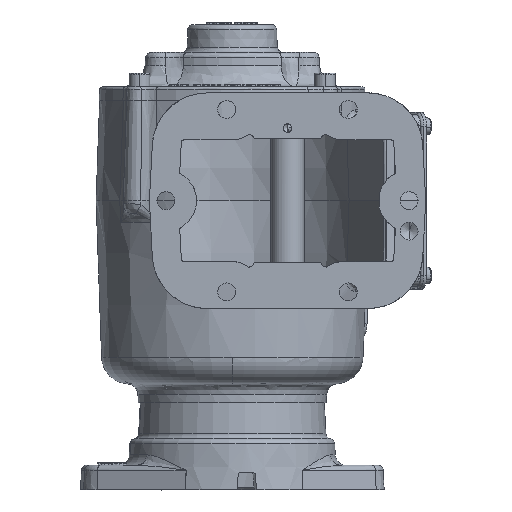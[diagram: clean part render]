
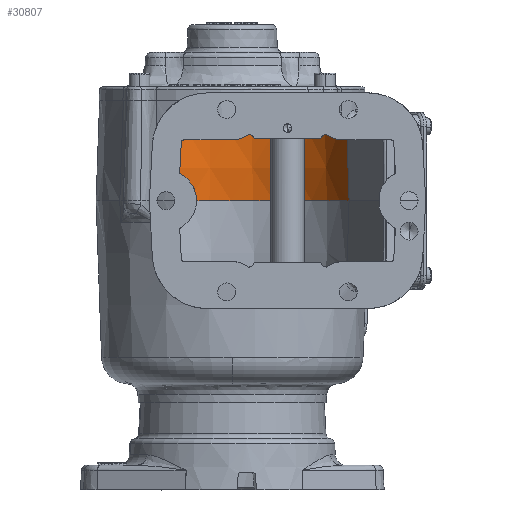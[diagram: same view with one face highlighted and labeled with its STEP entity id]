
A CAD part, front view. The second image highlights one B-rep face of the part: STEP entity #30807.
In plain terms, the highlighted conical face has half-angle 2 degrees and reference radius 71.882 mm.
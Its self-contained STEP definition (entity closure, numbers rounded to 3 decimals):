
#2975 = AXIS2_PLACEMENT_3D ( 'NONE', #79800, #111889, #69530 ) ;
#4203 = CIRCLE ( 'NONE', #76167, 71.882 ) ;
#9399 = DIRECTION ( 'NONE',  ( 0., 0., -1. ) ) ;
#12227 = CARTESIAN_POINT ( 'NONE',  ( 34.116, 109.855, 38.1 ) ) ;
#12259 = VERTEX_POINT ( 'NONE', #102821 ) ;
#14084 = DIRECTION ( 'NONE',  ( 0., 0., -1. ) ) ;
#14655 = AXIS2_PLACEMENT_3D ( 'NONE', #102963, #9399, #55045 ) ;
#16109 = CARTESIAN_POINT ( 'NONE',  ( -31.75, 84.572, 0. ) ) ;
#18118 = ORIENTED_EDGE ( 'NONE', *, *, #117378, .F. ) ;
#26666 = ORIENTED_EDGE ( 'NONE', *, *, #132410, .F. ) ;
#27764 = DIRECTION ( 'NONE',  ( -0.035, 0., -0.999 ) ) ;
#30807 = ADVANCED_FACE ( 'NONE', ( #131729 ), #109830, .F. ) ;
#44419 = VERTEX_POINT ( 'NONE', #12227 ) ;
#54853 = VERTEX_POINT ( 'NONE', #130623 ) ;
#55045 = DIRECTION ( 'NONE',  ( -1., 0., 0. ) ) ;
#55695 = LINE ( 'NONE', #97388, #89325 ) ;
#64140 = CARTESIAN_POINT ( 'NONE',  ( -102.302, 84.572, 38.1 ) ) ;
#69530 = DIRECTION ( 'NONE',  ( -1., 0., 0. ) ) ;
#70083 = LINE ( 'NONE', #90601, #131227 ) ;
#73544 = CIRCLE ( 'NONE', #14655, 70.552 ) ;
#76167 = AXIS2_PLACEMENT_3D ( 'NONE', #16109, #14084, #97392 ) ;
#79445 = ORIENTED_EDGE ( 'NONE', *, *, #88680, .T. ) ;
#79800 = CARTESIAN_POINT ( 'NONE',  ( -31.75, 84.572, 0. ) ) ;
#88680 = EDGE_CURVE ( 'NONE', #122147, #12259, #70083, .T. ) ;
#89325 = VECTOR ( 'NONE', #126796, 1000. ) ;
#90601 = CARTESIAN_POINT ( 'NONE',  ( -103.632, 84.572, 0. ) ) ;
#97388 = CARTESIAN_POINT ( 'NONE',  ( 34.737, 110.094, 19.05 ) ) ;
#97392 = DIRECTION ( 'NONE',  ( 0.934, 0.358, 0. ) ) ;
#102821 = CARTESIAN_POINT ( 'NONE',  ( -103.632, 84.572, 0. ) ) ;
#102963 = CARTESIAN_POINT ( 'NONE',  ( -31.75, 84.572, 38.1 ) ) ;
#106396 = EDGE_CURVE ( 'NONE', #12259, #54853, #4203, .T. ) ;
#109830 = CONICAL_SURFACE ( 'NONE', #2975, 71.882, 0.035 ) ;
#111889 = DIRECTION ( 'NONE',  ( 0., 0., -1. ) ) ;
#114445 = ORIENTED_EDGE ( 'NONE', *, *, #106396, .T. ) ;
#117378 = EDGE_CURVE ( 'NONE', #122147, #44419, #73544, .T. ) ;
#122147 = VERTEX_POINT ( 'NONE', #64140 ) ;
#123719 = EDGE_LOOP ( 'NONE', ( #18118, #79445, #114445, #26666 ) ) ;
#126796 = DIRECTION ( 'NONE',  ( 0.033, 0.013, -0.999 ) ) ;
#130623 = CARTESIAN_POINT ( 'NONE',  ( 35.358, 110.332, 0. ) ) ;
#131227 = VECTOR ( 'NONE', #27764, 1000. ) ;
#131729 = FACE_OUTER_BOUND ( 'NONE', #123719, .T. ) ;
#132410 = EDGE_CURVE ( 'NONE', #44419, #54853, #55695, .T. ) ;
